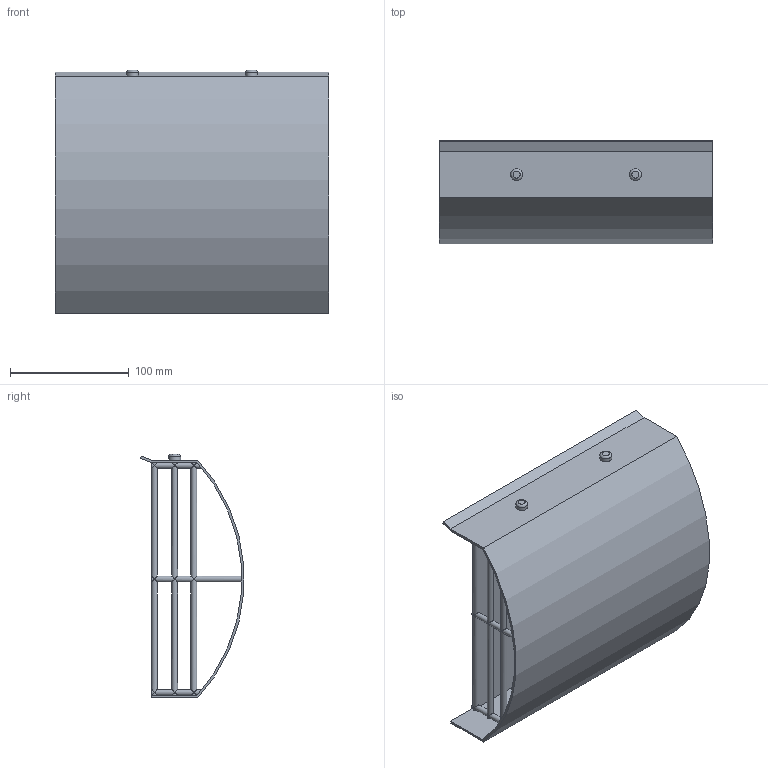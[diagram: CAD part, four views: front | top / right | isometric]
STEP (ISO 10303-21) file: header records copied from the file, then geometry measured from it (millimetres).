
FILE_DESCRIPTION(/* description */ (''),/* implementation_level */ '2;1');
FILE_NAME(/* name */ 'Z:\Output\IP-FBA_125-03125-001.stp',/* time_stamp */ '2017-07-11T11:43:52+02:00',/* author */ ('engineering1'),/* organization */ (''),/* preprocessor_version */ 'ST-DEVELOPER v16.5',/* originating_system */ 'Autodesk Inventor 2017',/* authorisation */ '');
FILE_SCHEMA (('AUTOMOTIVE_DESIGN { 1 0 10303 214 3 1 1 }'));
Length unit declared in the file: millimetre
Products named in the file (1): FBA-1
Bounding box: 230 x 86.89 x 205 mm (x, y, z)
Volume: 219160.9 mm3; surface area: 215280.9 mm2
Topology: 1 solids, 1 shells, 104 faces, 262 edges, 120 vertices
Faces by surface type: cylinder 71, plane 31, torus 2
Full cylindrical faces by diameter (mm): 5 x30, 10 x2, 100 x1
Entity records: 3195 total; most frequent: CARTESIAN_POINT 658, DIRECTION 599, ORIENTED_EDGE 502, AXIS2_PLACEMENT_3D 263, EDGE_CURVE 237, EDGE_LOOP 133, VERTEX_POINT 118, ELLIPSE 104
